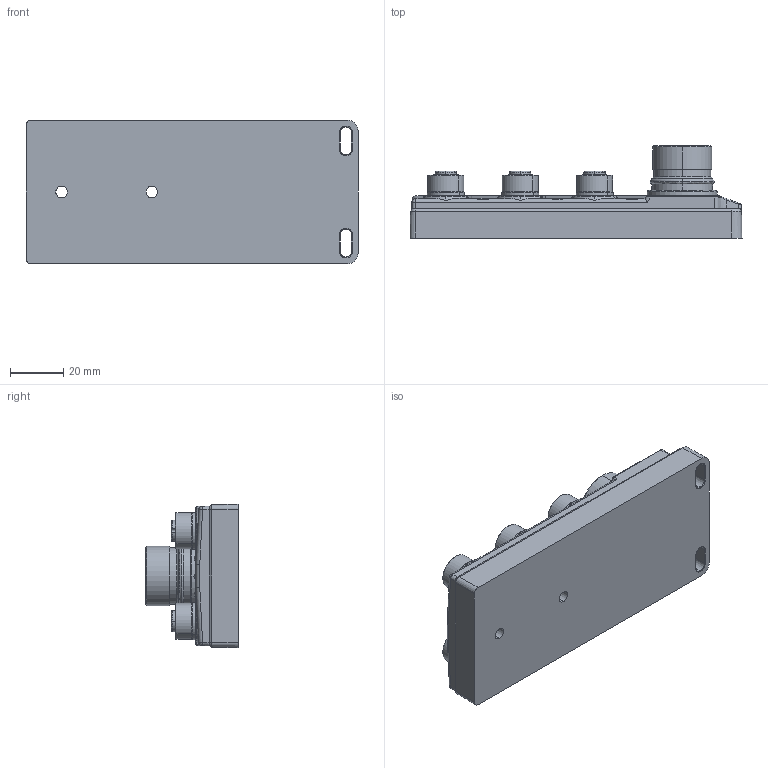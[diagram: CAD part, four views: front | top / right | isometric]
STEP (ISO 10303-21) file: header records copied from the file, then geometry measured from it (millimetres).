
FILE_DESCRIPTION (( 'STEP AP203' ), '1' );
FILE_NAME ('6MB12Z-CS-Top.step', '2017-09-13T13:40:58', ( '' ), ( '' ), 'SwSTEP 2.0', 'SolidWorks 2015', '' );
FILE_SCHEMA (( 'CONFIG_CONTROL_DESIGN' ));
Products named in the file (2): 6MB12Z-CS-Top
Bounding box: 125 x 34.9 x 54 mm (x, y, z)
Volume: 109651.6 mm3; surface area: 33676.1 mm2
Topology: 1 solids, 29 shells, 2342 faces, 5767 edges, 3383 vertices
Faces by surface type: cylinder 829, plane 809, cone 276, bspline 268, sphere 86, torus 74
Entity records: 75814 total; most frequent: CARTESIAN_POINT 24622, ORIENTED_EDGE 11234, DIRECTION 10046, EDGE_CURVE 5617, AXIS2_PLACEMENT_3D 3541, VERTEX_POINT 3374, LINE 2964, VECTOR 2964
